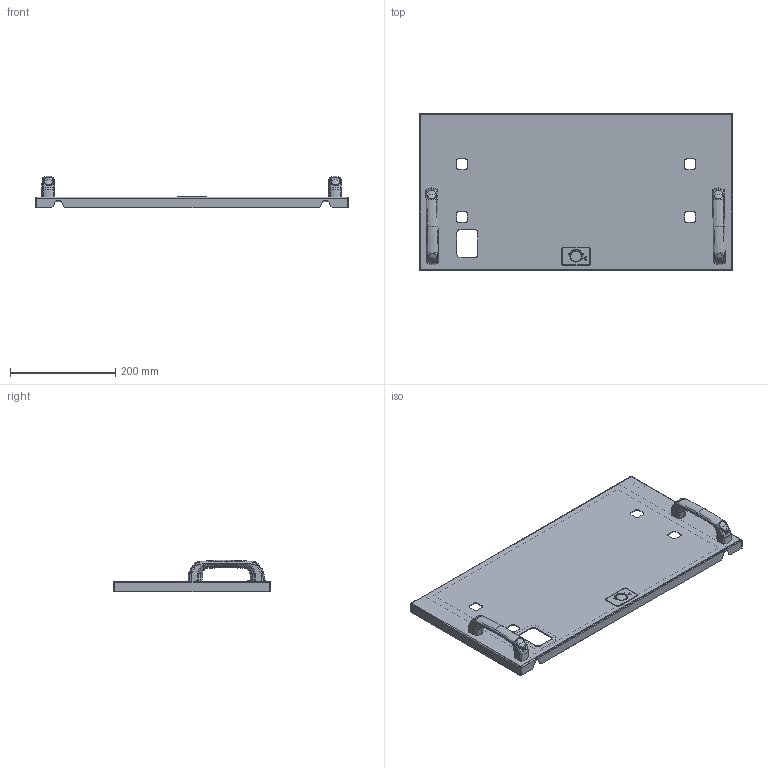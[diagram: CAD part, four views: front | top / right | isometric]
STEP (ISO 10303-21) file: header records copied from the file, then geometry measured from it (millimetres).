
FILE_DESCRIPTION(('CAx-IF Rec.Pracs.---Model Styling and Organization---1.2---2011-12-15','CAx-IF Rec.Pracs.---Geometric and Assembly Validation Properties---4.1---2014-06-16','CAx-IF Rec.Pracs.---PMI Polyline Presentation---2.0---2013-05-24'),'2;1');
FILE_NAME('R5M2W6M1BF-L.stp','2021-05-05T12:32:07+03:00',(''),(''),'STEP Interface 4.4 by CT CoreTechnologie','3D_Evolution4.4 by CT CoreTechnologie','');
FILE_SCHEMA(('AUTOMOTIVE_DESIGN { 1 0 10303 214 1 1 1 1 }'));
Length unit declared in the file: millimetre
Products named in the file (14): R5M2W6M1BF-L; RB.1942.00.00.0_-03; RB.1942.00.01.0_-03; RB.1166.00.02.0_¢ à 1; RB.1166.00.04.0_-00; PF 7x14 RAMmcc 2.0_61; Ì6õ12-A5100231_straight; RB.1166.00.05.0; PF 3.5x7 RAMmcc 2.0_00; Ì5-GOST 5915-70 (DIN 934)_straight; AC00C148_AC00C148; 4.444.002; PR.DT477.120.02-poprawa; PR.DT477.120.01
Assembly tree (18 placements, depth 3):
  R5M2W6M1BF-L
    RB.1942.00.00.0_-03
      RB.1942.00.01.0_-03
      RB.1166.00.02.0_¢ à 1
      RB.1166.00.04.0_-00
      PF 7x14 RAMmcc 2.0_61
      Ì6õ12-A5100231_straight
      RB.1166.00.05.0  x3
      PF 3.5x7 RAMmcc 2.0_00
    Ì5-GOST 5915-70 (DIN 934)_straight
    AC00C148_AC00C148  x2
    4.444.002  x2
      PR.DT477.120.02-poprawa
      PR.DT477.120.01
Bounding box: 594 x 297 x 60 mm (x, y, z)
Surface area: 528432.6 mm2 (no closed solid volume)
Topology: 0 solids, 21 shells, 2014 faces, 5027 edges, 3032 vertices
Faces by surface type: bspline 1054, plane 605, cylinder 355
Entity records: 43854 total; most frequent: CARTESIAN_POINT 20216, ORIENTED_EDGE 5060, DIRECTION 4578, EDGE_CURVE 2530, AXIS2_PLACEMENT_3D 1727, VERTEX_POINT 1549, CIRCLE 1202, VECTOR 1124
